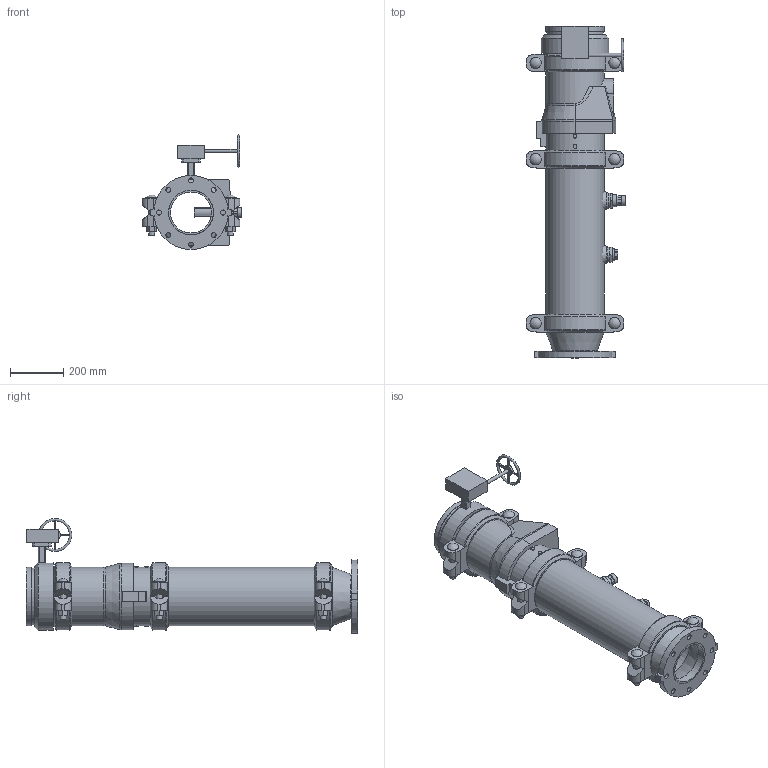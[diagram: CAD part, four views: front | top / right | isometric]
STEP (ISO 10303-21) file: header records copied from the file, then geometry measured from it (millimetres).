
FILE_DESCRIPTION(/* description */ ('VIC DVI PUMP DROP VERT S/380 (OGSxFLG) (S/924-0.75)','CAx-IF Rec.Pracs.---Representation and Presentation of Product Manufacturing Information (PMI)---4.0---2014-10-13'),/* implementation_level */ '2;1');
FILE_NAME(/* name */ 'C:\Users\Public\Documents\Victaulic.Temp\A765\Victaulic_IPS_Vertical DVI_CL 150_Series 380 (OGSxFLG)_924 (0.75)_08.0x06.0 (200x150).stp',/* time_stamp */ '2022-07-25T11:13:29+02:00',/* author */ ('Vjadhav'),/* organization */ ('Victaulic'),/* preprocessor_version */ 'ST-DEVELOPER v18',/* originating_system */ 'Autodesk Inventor 2020',/* authorisation */ '');
FILE_SCHEMA (('AP203_CONFIGURATION_CONTROLLED_3D_DESIGN_OF_MECHANICAL_PARTS_AND_ASSEMBLIES_MIM_LF { 1 0 10303 203 3 1 4 }','AP242_MANAGED_MODEL_BASED_3D_ENGINEERING_MIM_LF { 1 0 10303 442 1 1 4 }'));
Length unit declared in the file: inch
Products named in the file (9): 380_924 (0.75)-08.0x06.0; 741-06.0; 050-08.0x06.0; Pipe-08.0; 177N-08.0; 779-08.0; 923-04.0x0.75; 924-04.0x0.75; 761-08.0
Assembly tree (10 placements, depth 2):
  380_924 (0.75)-08.0x06.0
    741-06.0
    050-08.0x06.0
    177N-08.0  x3
    Pipe-08.0
    779-08.0
    923-04.0x0.75
    924-04.0x0.75
    761-08.0
Bounding box: 376.21 x 1249.43 x 432.78 mm (x, y, z)
Volume: 16976388.8 mm3; surface area: 2675883.1 mm2
Topology: 10 solids, 11 shells, 565 faces, 1510 edges, 1008 vertices
Faces by surface type: plane 339, cylinder 179, cone 20, torus 19, sphere 6, bspline 2
Full cylindrical faces by diameter (mm): 8.636 x4, 12.446 x1, 12.7 x1, 13.716 x4, 19.05 x8, 22.225 x6, 22.86 x1, 26.67 x2, 38.608 x1, 39.125 x1, 42.85 x6, 45.974 x4, 55.118 x1, 55.626 x2, 154.051 x1, 163.957 x1, 168.275 x3, 202.717 x4, 206.375 x3, 214.401 x7, 219.075 x19, 254 x1
Entity records: 13505 total; most frequent: CARTESIAN_POINT 2826, DIRECTION 2180, ORIENTED_EDGE 2016, EDGE_CURVE 1008, AXIS2_PLACEMENT_3D 830, VERTEX_POINT 680, LINE 520, VECTOR 520
